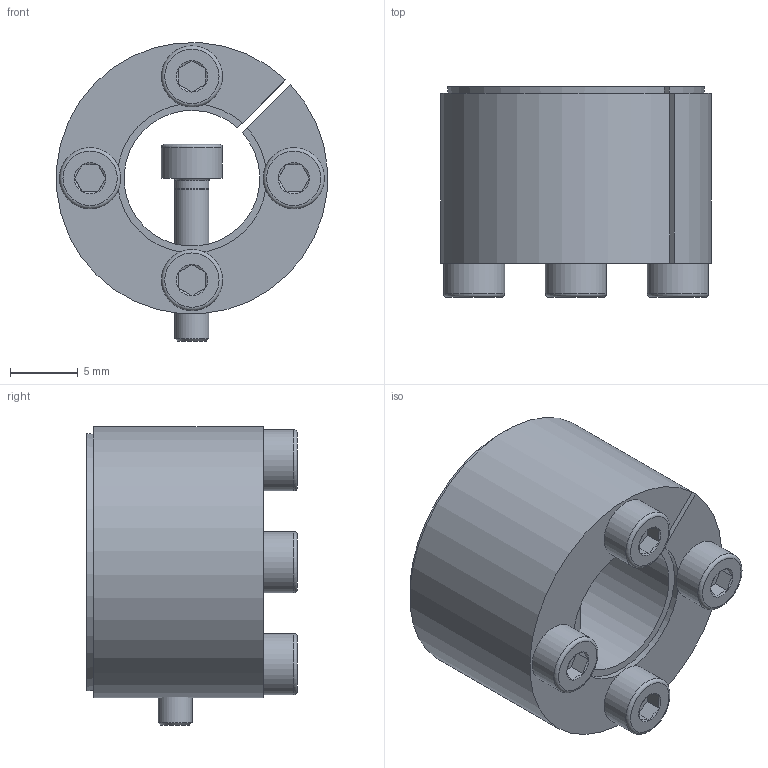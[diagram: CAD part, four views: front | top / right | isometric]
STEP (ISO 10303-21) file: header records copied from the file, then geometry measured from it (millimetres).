
FILE_DESCRIPTION( ( 'Unknown' ), '1' );
FILE_NAME( 'C:/Dokumente und Einstellungen/Sven/Desktop/homepage/cad - homepage/KBS61/KBS 61 - 10 x 20.stp', 'Unknown', ( 'Unknown' ), ( 'Unknown' ), 'XStep 1.0', 'Unknown', ' ' );
FILE_SCHEMA( ( 'automotive_design' ) );
Length unit declared in the file: millimetre
Products named in the file (6): Assem1; KBS 61 - 10 x 20; ISO EN DIN 4762 M2,5x12; ISO EN DIN 4762 M2,5x12-oa0; ISO EN DIN 4762 M2,5x12-oa1; ISO EN DIN 4762 M2,5x12-oa2
Bounding box: 19.94 x 15.5 x 21.98 mm (x, y, z)
Volume: 6253.3 mm3; surface area: 5721.1 mm2
Topology: 10 solids, 10 shells, 228 faces, 424 edges, 248 vertices
Faces by surface type: plane 108, cone 60, cylinder 44, torus 16
Full cylindrical faces by diameter (mm): 2.1 x8, 2.5 x24, 4.5 x8
Entity records: 2963 total; most frequent: CARTESIAN_POINT 556, DIRECTION 468, ORIENTED_EDGE 344, AXIS2_PLACEMENT_3D 204, EDGE_CURVE 172, EDGE_LOOP 170, FACE_OUTER_BOUND 142, VERTEX_POINT 116
